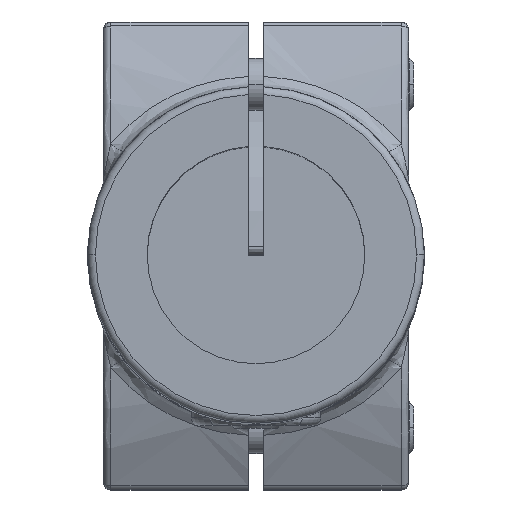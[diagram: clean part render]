
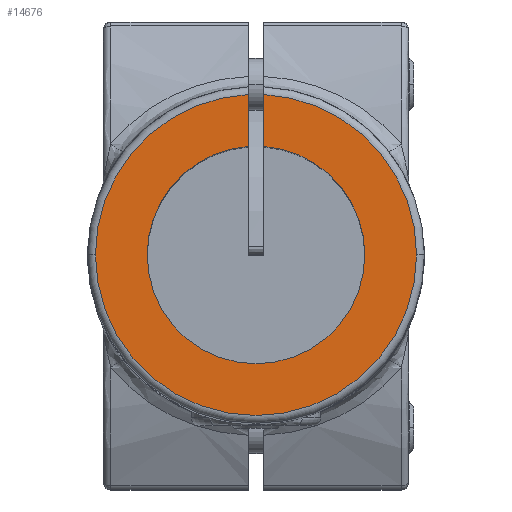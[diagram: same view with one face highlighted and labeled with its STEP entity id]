
A CAD part, top view. The second image highlights one B-rep face of the part: STEP entity #14676.
In plain terms, the highlighted planar face has unit normal (0, 0, 1) as drawn and (0, 0, -1) by its records, which use the part's own axes.
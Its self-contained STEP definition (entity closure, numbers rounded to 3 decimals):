
#790 = EDGE_CURVE ( 'NONE', #19506, #5884, #19223, .T. ) ;
#884 = DIRECTION ( 'NONE',  ( 0., 0., 1. ) ) ;
#1414 = DIRECTION ( 'NONE',  ( 0., 0., 1. ) ) ;
#1439 = DIRECTION ( 'NONE',  ( 1., 0., 0. ) ) ;
#1442 = CARTESIAN_POINT ( 'NONE',  ( 0., 0., 0. ) ) ;
#1459 = EDGE_CURVE ( 'NONE', #19506, #15141, #12450, .T. ) ;
#1610 = DIRECTION ( 'NONE',  ( 0., 0., 1. ) ) ;
#1626 = CIRCLE ( 'NONE', #4165, 21. ) ;
#1812 = CARTESIAN_POINT ( 'NONE',  ( 0., 0., 0. ) ) ;
#2310 = DIRECTION ( 'NONE',  ( 0., 0., -1. ) ) ;
#2577 = CARTESIAN_POINT ( 'NONE',  ( 0., 0., 0. ) ) ;
#2614 = ORIENTED_EDGE ( 'NONE', *, *, #17650, .T. ) ;
#2712 = DIRECTION ( 'NONE',  ( 1., 0., 0. ) ) ;
#3964 = CARTESIAN_POINT ( 'NONE',  ( -1.5, 0., 0. ) ) ;
#4165 = AXIS2_PLACEMENT_3D ( 'NONE', #1812, #1610, #6169 ) ;
#4183 = DIRECTION ( 'NONE',  ( 1., 0., 0. ) ) ;
#4827 = CARTESIAN_POINT ( 'NONE',  ( -1.5, 20.946, 0. ) ) ;
#4869 = EDGE_CURVE ( 'NONE', #15141, #8343, #17819, .T. ) ;
#4994 = CARTESIAN_POINT ( 'NONE',  ( -1.5, 30.964, 0. ) ) ;
#5707 = ORIENTED_EDGE ( 'NONE', *, *, #18827, .T. ) ;
#5795 = EDGE_CURVE ( 'NONE', #11557, #5884, #12179, .T. ) ;
#5864 = VECTOR ( 'NONE', #16108, 1000. ) ;
#5884 = VERTEX_POINT ( 'NONE', #6130 ) ;
#6130 = CARTESIAN_POINT ( 'NONE',  ( 1.5, 20.946, 0. ) ) ;
#6169 = DIRECTION ( 'NONE',  ( -1., 0., 0. ) ) ;
#6795 = CIRCLE ( 'NONE', #13191, 21. ) ;
#6938 = DIRECTION ( 'NONE',  ( 0., 0., 1. ) ) ;
#7503 = EDGE_CURVE ( 'NONE', #11175, #11570, #19311, .T. ) ;
#7730 = CARTESIAN_POINT ( 'NONE',  ( -31., 0., 0. ) ) ;
#7795 = VECTOR ( 'NONE', #17808, 1000. ) ;
#8176 = CARTESIAN_POINT ( 'NONE',  ( 21., 0., 0. ) ) ;
#8343 = VERTEX_POINT ( 'NONE', #7730 ) ;
#8344 = ORIENTED_EDGE ( 'NONE', *, *, #7503, .F. ) ;
#8691 = CARTESIAN_POINT ( 'NONE',  ( 0., 0., 0. ) ) ;
#8967 = PLANE ( 'NONE',  #13885 ) ;
#9227 = ORIENTED_EDGE ( 'NONE', *, *, #5795, .T. ) ;
#9869 = VERTEX_POINT ( 'NONE', #12913 ) ;
#10178 = CARTESIAN_POINT ( 'NONE',  ( 1.5, 30.964, 0. ) ) ;
#10337 = EDGE_LOOP ( 'NONE', ( #18831, #14143, #18369, #2614, #8344, #5707, #13361, #9227 ) ) ;
#10651 = CIRCLE ( 'NONE', #17328, 31. ) ;
#10797 = CARTESIAN_POINT ( 'NONE',  ( 31., 0., 0. ) ) ;
#11175 = VERTEX_POINT ( 'NONE', #4827 ) ;
#11557 = VERTEX_POINT ( 'NONE', #8176 ) ;
#11570 = VERTEX_POINT ( 'NONE', #4994 ) ;
#12179 = CIRCLE ( 'NONE', #13714, 21. ) ;
#12450 = CIRCLE ( 'NONE', #17508, 31. ) ;
#12913 = CARTESIAN_POINT ( 'NONE',  ( -21., 0., 0. ) ) ;
#13191 = AXIS2_PLACEMENT_3D ( 'NONE', #17480, #884, #19186 ) ;
#13361 = ORIENTED_EDGE ( 'NONE', *, *, #17223, .T. ) ;
#13714 = AXIS2_PLACEMENT_3D ( 'NONE', #2577, #6938, #17497 ) ;
#13885 = AXIS2_PLACEMENT_3D ( 'NONE', #15042, #1414, #2712 ) ;
#14143 = ORIENTED_EDGE ( 'NONE', *, *, #1459, .T. ) ;
#14676 = ADVANCED_FACE ( 'NONE', ( #16330 ), #8967, .F. ) ;
#15042 = CARTESIAN_POINT ( 'NONE',  ( 0., 0., 0. ) ) ;
#15141 = VERTEX_POINT ( 'NONE', #10797 ) ;
#15727 = DIRECTION ( 'NONE',  ( 0., 0., -1. ) ) ;
#16108 = DIRECTION ( 'NONE',  ( 0., 1., 0. ) ) ;
#16330 = FACE_OUTER_BOUND ( 'NONE', #10337, .T. ) ;
#16869 = AXIS2_PLACEMENT_3D ( 'NONE', #17024, #2310, #4183 ) ;
#17024 = CARTESIAN_POINT ( 'NONE',  ( 0., 0., 0. ) ) ;
#17120 = DIRECTION ( 'NONE',  ( 1., 0., 0. ) ) ;
#17223 = EDGE_CURVE ( 'NONE', #9869, #11557, #6795, .T. ) ;
#17328 = AXIS2_PLACEMENT_3D ( 'NONE', #8691, #19462, #1439 ) ;
#17480 = CARTESIAN_POINT ( 'NONE',  ( 0., 0., 0. ) ) ;
#17497 = DIRECTION ( 'NONE',  ( -1., 0., 0. ) ) ;
#17508 = AXIS2_PLACEMENT_3D ( 'NONE', #1442, #15727, #17120 ) ;
#17650 = EDGE_CURVE ( 'NONE', #8343, #11570, #10651, .T. ) ;
#17808 = DIRECTION ( 'NONE',  ( 0., -1., 0. ) ) ;
#17819 = CIRCLE ( 'NONE', #16869, 31. ) ;
#18369 = ORIENTED_EDGE ( 'NONE', *, *, #4869, .T. ) ;
#18827 = EDGE_CURVE ( 'NONE', #11175, #9869, #1626, .T. ) ;
#18831 = ORIENTED_EDGE ( 'NONE', *, *, #790, .F. ) ;
#19186 = DIRECTION ( 'NONE',  ( -1., 0., 0. ) ) ;
#19223 = LINE ( 'NONE', #19419, #7795 ) ;
#19311 = LINE ( 'NONE', #3964, #5864 ) ;
#19419 = CARTESIAN_POINT ( 'NONE',  ( 1.5, 0., 0. ) ) ;
#19462 = DIRECTION ( 'NONE',  ( 0., 0., -1. ) ) ;
#19506 = VERTEX_POINT ( 'NONE', #10178 ) ;
